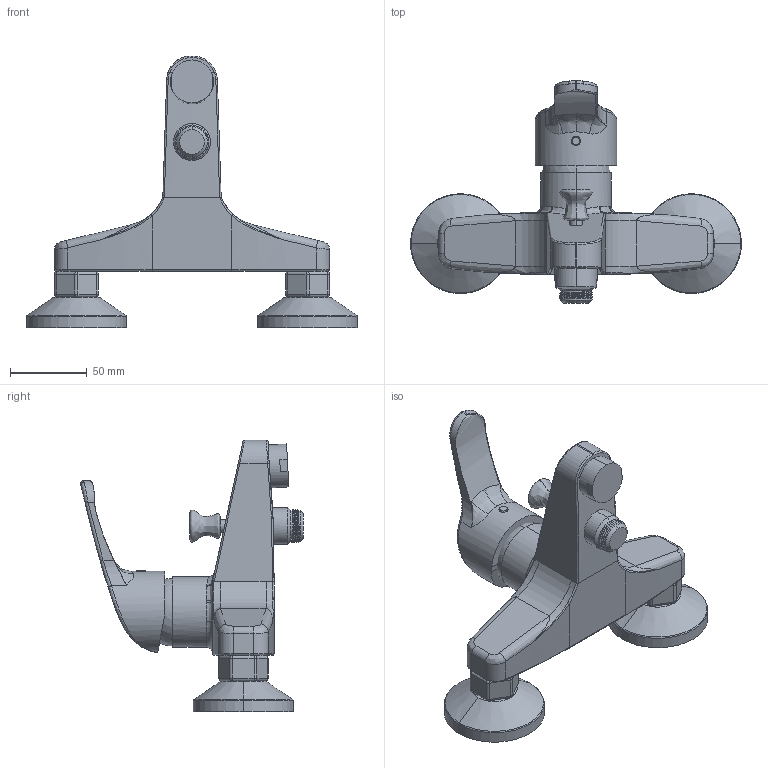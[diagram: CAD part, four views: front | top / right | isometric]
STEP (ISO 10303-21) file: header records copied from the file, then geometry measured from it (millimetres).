
FILE_DESCRIPTION (( 'STEP AP214' ), '1' );
FILE_NAME ('42CR111CAKM(Ñ ïîïðàâêàìè).STEP', '2020-04-13T09:16:26', ( '' ), ( '' ), 'SwSTEP 2.0', 'SolidWorks 2017', '' );
FILE_SCHEMA (( 'AUTOMOTIVE_DESIGN' ));
Length unit declared in the file: millimetre
Products named in the file (3): 42CR111CAKM(Ñ ïîïðàâêàìè); Ðó÷êà; 扰鳧
Assembly tree (2 placements, depth 2):
  42CR111CAKM(Ñ ïîïðàâêàìè)
    扰鳧
    Ðó÷êà
Bounding box: 215.42 x 144.8 x 177 mm (x, y, z)
Volume: 591700.6 mm3; surface area: 77232.5 mm2
Topology: 2 solids, 2 shells, 260 faces, 603 edges, 342 vertices
Faces by surface type: cylinder 92, bspline 61, plane 53, sphere 26, torus 20, cone 8
Entity records: 11665 total; most frequent: CARTESIAN_POINT 6318, ORIENTED_EDGE 1156, DIRECTION 1037, EDGE_CURVE 578, AXIS2_PLACEMENT_3D 429, VERTEX_POINT 332, EDGE_LOOP 270, ADVANCED_FACE 260
